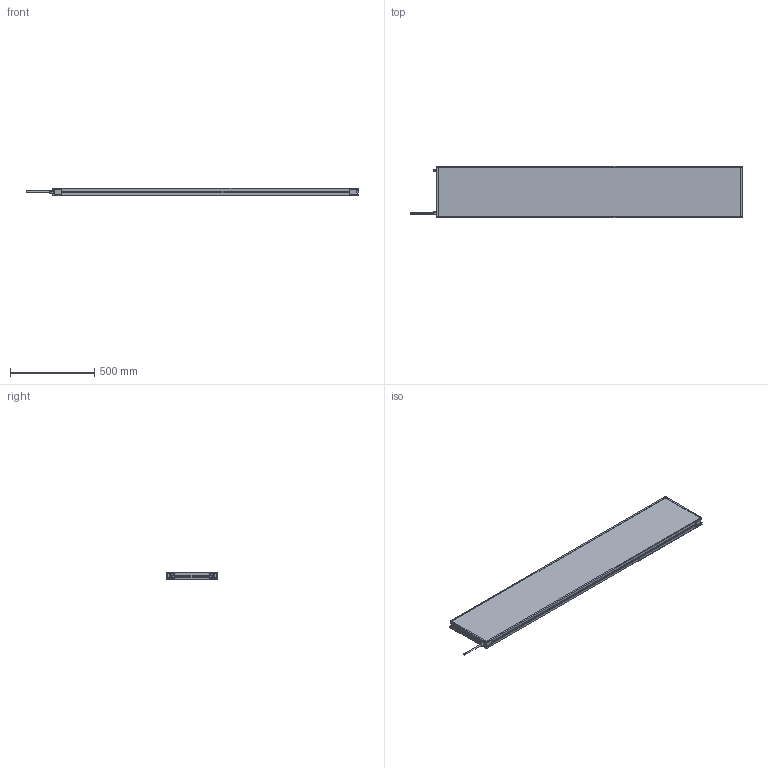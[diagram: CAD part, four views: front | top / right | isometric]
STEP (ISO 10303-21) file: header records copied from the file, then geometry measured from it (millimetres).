
FILE_DESCRIPTION (( 'STEP AP214' ), '1' );
FILE_NAME ('MBACK-xxxx-xxx-M1A2_CLIENT300x1800.STEP', '2022-04-01T11:33:16', ( '' ), ( '' ), 'SwSTEP 2.0', 'SolidWorks 2020', '' );
FILE_SCHEMA (( 'AUTOMOTIVE_DESIGN' ));
Length unit declared in the file: millimetre
Products named in the file (1): MBACK-xxxx-xxx-M1A2_CLIENT300x1800
Bounding box: 1967.4 x 308 x 45.5 mm (x, y, z)
Volume: 23155157.4 mm3; surface area: 1400831.7 mm2
Topology: 1 solids, 1 shells, 470 faces, 1210 edges, 804 vertices
Faces by surface type: plane 265, cylinder 117, bspline 80, cone 8
Entity records: 18046 total; most frequent: CARTESIAN_POINT 6837, ORIENTED_EDGE 2420, DIRECTION 2082, EDGE_CURVE 1210, VERTEX_POINT 804, VECTOR 800, LINE 800, AXIS2_PLACEMENT_3D 641
